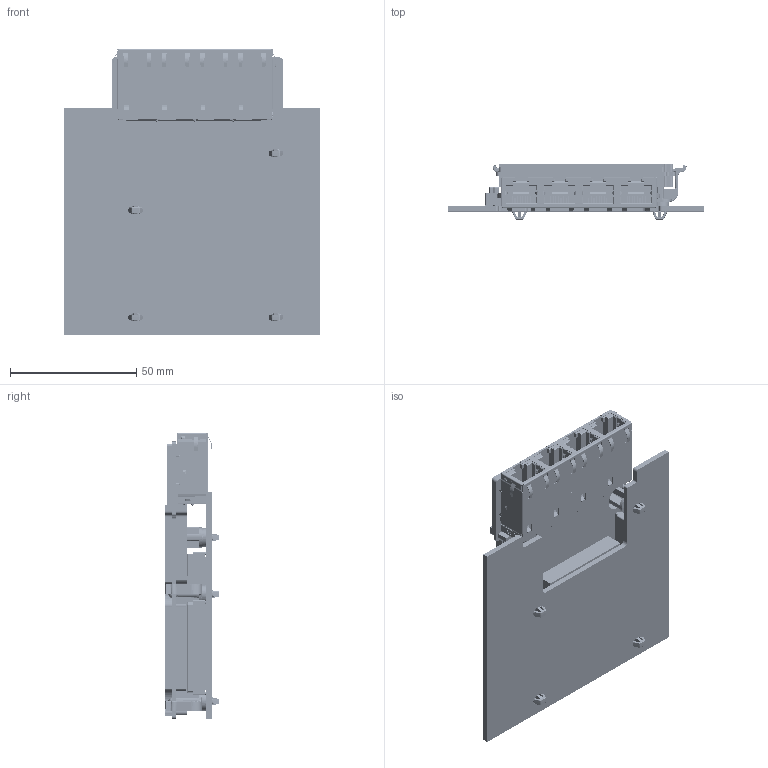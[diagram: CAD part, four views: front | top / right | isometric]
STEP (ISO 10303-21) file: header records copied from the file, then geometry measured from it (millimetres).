
FILE_DESCRIPTION((''),'2;1');
FILE_NAME('OCP-MZ-2_0-ASSY_1X4-RJ45_8MM_ASM','2015-10-23T',('95030616'),(''),'PRO/ENGINEER BY PARAMETRIC TECHNOLOGY CORPORATION, 2013040','PRO/ENGINEER BY PARAMETRIC TECHNOLOGY CORPORATION, 2013040','');
FILE_SCHEMA(('AUTOMOTIVE_DESIGN { 1 0 10303 214 1 1 1 1 }'));
Products named in the file (227): OCP-2_0-BOARD_2; F01-LED-EVERLIGHT; 64POS-PLUG4; BTM-KEEPOUT-2MM; BTM-KEEPOUT-2_9MM; TOP-KEEPOUT-4_5MM; TOP-KEEPOUT-4MM; TOP-KEEPOUT-4MM-2; TOP-KEEPOUT-11_5MM; PORTION_MB_LEOPARD_E1_FILLED; FCI_61082_082402LF_LEOPARD_E1; FCI_61082_122402LF_LEOPARD_E1; 64POS-REC2; ASSY_PORTION_MB_LEOPARD_E1_ASM__ASM; F07-MEZZ-LATCH-RIGHT-12MM; F07-MEZZ-LATCH-LEFT-12MM; GD-P110__1X4; R12-LED_LEFT; LED_PIN-72141; GDX_LED_LEFT__W___ASM; R12-LED_RIGHT; LED_PIN-72342; GDX_LED_RIGHT___W___ASM; GD2-C130_________-73345; ____4-107790; ____4-108563; GD2-IM-73409_ASM; GD2-M121______Z-73354_ASM; GD2-C130_________-72686; ____4-107899; ____4-108133; GD2-IM-73335_ASM; GD2-M121______Z-73499_ASM; GD2-C130_________-73330; ____4-107847; ____4-108235; GD2-IM-73366_ASM; GD2-M121______Z-72582_ASM; GD2_1X4_W_LED_ASM; GD2-P120-73004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
Assembly tree (304 placements, depth 6):
  OCP-MZ-2_0-ASSY_1X4-RJ45_8MM_ASM
    OCP-2_0-BOARD_2
    F01-LED-EVERLIGHT  x8
    64POS-PLUG4
    BTM-KEEPOUT-2MM
    BTM-KEEPOUT-2_9MM
    TOP-KEEPOUT-4_5MM
    TOP-KEEPOUT-4MM
    TOP-KEEPOUT-4MM-2
    TOP-KEEPOUT-11_5MM
    ASSY_PORTION_MB_LEOPARD_E1_ASM__ASM
      PORTION_MB_LEOPARD_E1_FILLED
      FCI_61082_082402LF_LEOPARD_E1
      FCI_61082_122402LF_LEOPARD_E1
      64POS-REC2
    F07-MEZZ-LATCH-RIGHT-12MM  x3
    F07-MEZZ-LATCH-LEFT-12MM
    GDX_1X4-ASSY_ASM
      GD2_1X4_W_LED_ASM
        GD-P110__1X4
        GDX_LED_LEFT__W___ASM  x4
          R12-LED_LEFT
          LED_PIN-72141
        GDX_LED_RIGHT___W___ASM  x4
          R12-LED_RIGHT
          LED_PIN-72342
        GD2-M121______Z-73354_ASM
          GD2-C130_________-73345
          GD2-IM-73409_ASM
            ____4-107790
            ____4-108563
        GD2-M121______Z-73499_ASM
          GD2-C130_________-72686
          GD2-IM-73335_ASM
            ____4-107899
            ____4-108133
        GD2-M121______Z-72582_ASM
          GD2-C130_________-73330
          GD2-IM-73366_ASM
            ____4-107847
            ____4-108235
      GD2-_____B____-73422_ASM
        GD2-M110_GD2-M110000M-72039_ASM
          GD2-P120-73004
          R26-C130_R26-C130000X____  x14
          GD2-C120__GD2-C120-72947  x4
          GD2-C120__GD2-C120-74197_ASM
            ___-107657
            ___-108524
          GD2-C120__GD2-C120-74569_ASM
            ___-107694
            ___-107715
          GD2-C120__GD2-C120-73180_ASM
            ___-107745
            ___-108592
          GD2-C120__GD2-C120-72984_ASM
            ___-107964
            ___-108032
          GD2-C120__GD2-C120-73458_ASM
            ___-108090
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Bounding box: 101.72 x 21.77 x 113.41 mm (x, y, z)
Volume: 106748 mm3; surface area: 105843.5 mm2
Topology: 259 solids, 259 shells, 15853 faces, 42578 edges, 27234 vertices
Faces by surface type: plane 12568, cylinder 2443, bspline 512, sphere 167, cone 117, torus 46
Entity records: 433485 total; most frequent: CARTESIAN_POINT 84059, ORIENTED_EDGE 64746, DIRECTION 60133, EDGE_CURVE 32373, VECTOR 27701, LINE 27701, VERTEX_POINT 20774, AXIS2_PLACEMENT_3D 16216
